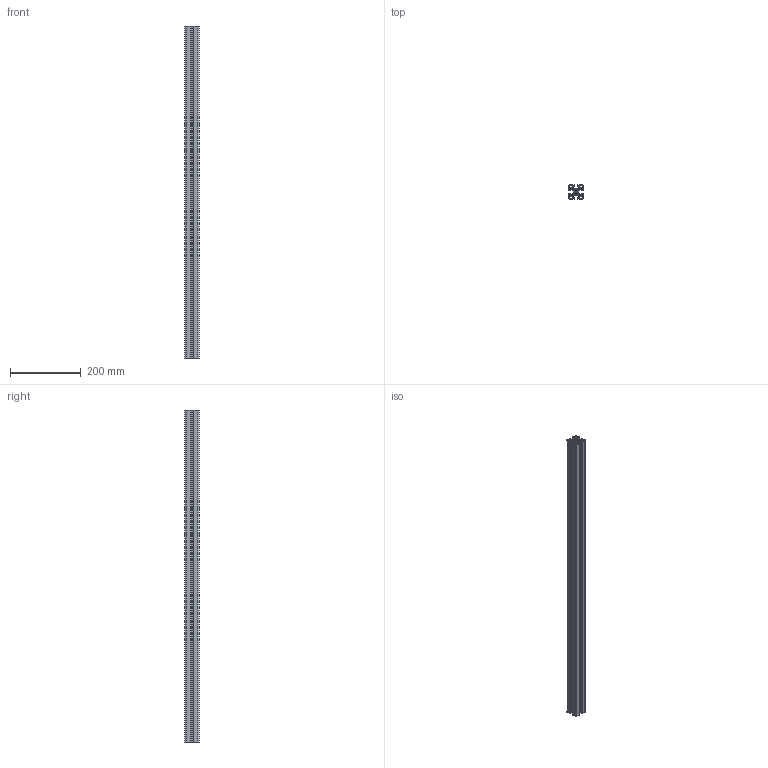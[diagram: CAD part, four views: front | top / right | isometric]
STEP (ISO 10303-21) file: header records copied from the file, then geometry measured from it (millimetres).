
FILE_DESCRIPTION(('no description'),'unknown implementation level');
FILE_NAME('7_0_000_09_4.stp',' ',('item Industrietechnik GmbH'),('CADClick - KiM GmbH - www.kimweb.de'),'unknown preprocess','ACIS','unknown authorization');
FILE_SCHEMA(('automotive_design'));
Length unit declared in the file: millimetre
Products named in the file (1): 1
Bounding box: 40 x 40 x 940 mm (x, y, z)
Volume: 483274.5 mm3; surface area: 548235.2 mm2
Topology: 1 solids, 1 shells, 236 faces, 702 edges, 468 vertices
Faces by surface type: cylinder 142, plane 94
Entity records: 15828 total; most frequent: DIRECTION 1460, STYLED_ITEM 1407, PRESENTATION_STYLE_ASSIGNMENT 1407, CARTESIAN_POINT 1407, COLOUR_RGB 1407, ORIENTED_EDGE 1404, EDGE_CURVE 702, CURVE_STYLE 702
